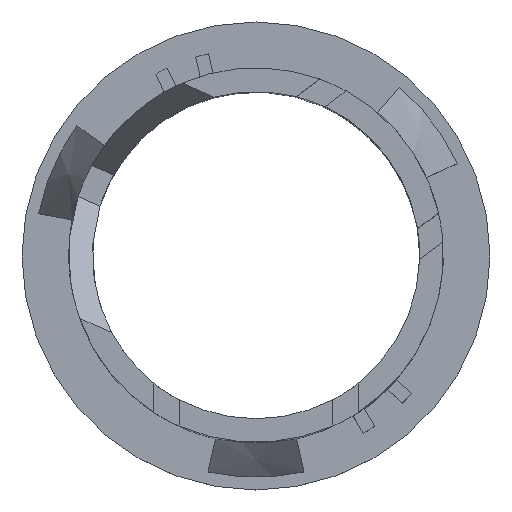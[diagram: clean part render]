
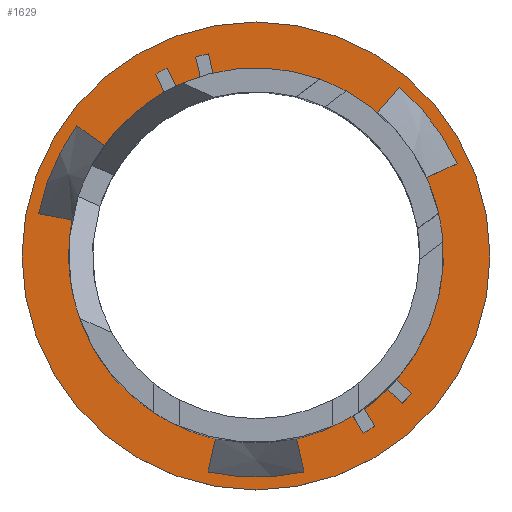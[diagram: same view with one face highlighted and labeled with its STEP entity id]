
A CAD part, top view. The second image highlights one B-rep face of the part: STEP entity #1629.
In plain terms, the highlighted planar face has unit normal (0, 0, 1).
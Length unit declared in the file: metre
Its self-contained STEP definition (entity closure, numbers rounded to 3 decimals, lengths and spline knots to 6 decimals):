
#34=PLANE('',#1808);
#113=CIRCLE('',#1730,0.013465);
#115=CIRCLE('',#1732,0.013465);
#117=CIRCLE('',#1734,0.013465);
#119=CIRCLE('',#1736,0.013465);
#178=CIRCLE('',#1807,0.01682);
#179=CIRCLE('',#1809,0.014915);
#180=CIRCLE('',#1810,0.014915);
#181=CIRCLE('',#1811,0.014915);
#182=CIRCLE('',#1812,0.014915);
#356=ORIENTED_EDGE('',*,*,#696,.F.);
#357=ORIENTED_EDGE('',*,*,#834,.T.);
#358=ORIENTED_EDGE('',*,*,#835,.F.);
#359=ORIENTED_EDGE('',*,*,#836,.F.);
#360=ORIENTED_EDGE('',*,*,#708,.F.);
#361=ORIENTED_EDGE('',*,*,#837,.T.);
#362=ORIENTED_EDGE('',*,*,#838,.F.);
#363=ORIENTED_EDGE('',*,*,#839,.F.);
#364=ORIENTED_EDGE('',*,*,#704,.F.);
#365=ORIENTED_EDGE('',*,*,#840,.T.);
#366=ORIENTED_EDGE('',*,*,#841,.F.);
#367=ORIENTED_EDGE('',*,*,#842,.F.);
#368=ORIENTED_EDGE('',*,*,#700,.F.);
#369=ORIENTED_EDGE('',*,*,#843,.T.);
#370=ORIENTED_EDGE('',*,*,#844,.F.);
#371=ORIENTED_EDGE('',*,*,#845,.F.);
#372=ORIENTED_EDGE('',*,*,#833,.T.);
#696=EDGE_CURVE('',#941,#942,#113,.T.);
#700=EDGE_CURVE('',#945,#946,#115,.T.);
#704=EDGE_CURVE('',#949,#950,#117,.T.);
#708=EDGE_CURVE('',#953,#939,#119,.T.);
#833=EDGE_CURVE('',#1066,#1066,#178,.T.);
#834=EDGE_CURVE('',#941,#1067,#1165,.T.);
#835=EDGE_CURVE('',#1068,#1067,#179,.T.);
#836=EDGE_CURVE('',#939,#1068,#1166,.T.);
#837=EDGE_CURVE('',#953,#1069,#1167,.T.);
#838=EDGE_CURVE('',#1070,#1069,#180,.T.);
#839=EDGE_CURVE('',#950,#1070,#1168,.T.);
#840=EDGE_CURVE('',#949,#1071,#1169,.T.);
#841=EDGE_CURVE('',#1072,#1071,#181,.T.);
#842=EDGE_CURVE('',#946,#1072,#1170,.T.);
#843=EDGE_CURVE('',#945,#1073,#1171,.T.);
#844=EDGE_CURVE('',#1074,#1073,#182,.T.);
#845=EDGE_CURVE('',#942,#1074,#1172,.T.);
#939=VERTEX_POINT('',#2442);
#941=VERTEX_POINT('',#2446);
#942=VERTEX_POINT('',#2448);
#945=VERTEX_POINT('',#2454);
#946=VERTEX_POINT('',#2456);
#949=VERTEX_POINT('',#2462);
#950=VERTEX_POINT('',#2464);
#953=VERTEX_POINT('',#2470);
#1066=VERTEX_POINT('',#2717);
#1067=VERTEX_POINT('',#2720);
#1068=VERTEX_POINT('',#2722);
#1069=VERTEX_POINT('',#2725);
#1070=VERTEX_POINT('',#2727);
#1071=VERTEX_POINT('',#2730);
#1072=VERTEX_POINT('',#2732);
#1073=VERTEX_POINT('',#2735);
#1074=VERTEX_POINT('',#2737);
#1165=LINE('',#2719,#1321);
#1166=LINE('',#2723,#1322);
#1167=LINE('',#2724,#1323);
#1168=LINE('',#2728,#1324);
#1169=LINE('',#2729,#1325);
#1170=LINE('',#2733,#1326);
#1171=LINE('',#2734,#1327);
#1172=LINE('',#2738,#1328);
#1321=VECTOR('',#2152,1.);
#1322=VECTOR('',#2155,1.);
#1323=VECTOR('',#2156,1.);
#1324=VECTOR('',#2159,1.);
#1325=VECTOR('',#2160,1.);
#1326=VECTOR('',#2163,1.);
#1327=VECTOR('',#2164,1.);
#1328=VECTOR('',#2167,1.);
#1424=EDGE_LOOP('',(#356,#357,#358,#359,#360,#361,#362,#363,#364,#365,#366,
#367,#368,#369,#370,#371));
#1425=EDGE_LOOP('',(#372));
#1530=FACE_BOUND('',#1424,.T.);
#1531=FACE_BOUND('',#1425,.T.);
#1629=ADVANCED_FACE('',(#1530,#1531),#34,.T.);
#1730=AXIS2_PLACEMENT_3D('',#2447,#1926,#1927);
#1732=AXIS2_PLACEMENT_3D('',#2455,#1932,#1933);
#1734=AXIS2_PLACEMENT_3D('',#2463,#1938,#1939);
#1736=AXIS2_PLACEMENT_3D('',#2471,#1944,#1945);
#1807=AXIS2_PLACEMENT_3D('',#2716,#2148,#2149);
#1808=AXIS2_PLACEMENT_3D('',#2718,#2150,#2151);
#1809=AXIS2_PLACEMENT_3D('',#2721,#2153,#2154);
#1810=AXIS2_PLACEMENT_3D('',#2726,#2157,#2158);
#1811=AXIS2_PLACEMENT_3D('',#2731,#2161,#2162);
#1812=AXIS2_PLACEMENT_3D('',#2736,#2165,#2166);
#1926=DIRECTION('',(0.,0.,1.));
#1927=DIRECTION('',(1.,0.,0.));
#1932=DIRECTION('',(0.,0.,1.));
#1933=DIRECTION('',(1.,0.,0.));
#1938=DIRECTION('',(0.,0.,1.));
#1939=DIRECTION('',(1.,0.,0.));
#1944=DIRECTION('',(0.,0.,1.));
#1945=DIRECTION('',(1.,0.,0.));
#2148=DIRECTION('',(0.,0.,1.));
#2149=DIRECTION('',(1.,0.,0.));
#2150=DIRECTION('',(0.,0.,1.));
#2151=DIRECTION('',(1.,0.,0.));
#2152=DIRECTION('',(-0.426,0.905,0.));
#2153=DIRECTION('',(0.,0.,1.));
#2154=DIRECTION('',(1.,0.,0.));
#2155=DIRECTION('',(-0.426,0.905,0.));
#2156=DIRECTION('',(-0.23,0.973,0.));
#2157=DIRECTION('',(0.,0.,1.));
#2158=DIRECTION('',(1.,0.,0.));
#2159=DIRECTION('',(-0.23,0.973,0.));
#2160=DIRECTION('',(0.748,-0.663,0.));
#2161=DIRECTION('',(0.,0.,1.));
#2162=DIRECTION('',(1.,0.,0.));
#2163=DIRECTION('',(0.748,-0.663,0.));
#2164=DIRECTION('',(0.518,-0.855,0.));
#2165=DIRECTION('',(0.,0.,1.));
#2166=DIRECTION('',(1.,0.,0.));
#2167=DIRECTION('',(0.518,-0.855,0.));
#2442=CARTESIAN_POINT('',(-0.005742,0.012179,0.00169));
#2446=CARTESIAN_POINT('',(-0.006587,0.011744,0.00169));
#2447=CARTESIAN_POINT('',(0.,0.,0.00169));
#2448=CARTESIAN_POINT('',(0.006973,-0.011519,0.00169));
#2454=CARTESIAN_POINT('',(0.007768,-0.010998,0.00169));
#2455=CARTESIAN_POINT('',(0.,0.,0.00169));
#2456=CARTESIAN_POINT('',(0.009422,-0.00962,0.00169));
#2462=CARTESIAN_POINT('',(0.010077,-0.008931,0.00169));
#2463=CARTESIAN_POINT('',(0.,0.,0.00169));
#2464=CARTESIAN_POINT('',(-0.003092,0.013105,0.00169));
#2470=CARTESIAN_POINT('',(-0.004009,0.012854,0.00169));
#2471=CARTESIAN_POINT('',(0.,0.,0.00169));
#2716=CARTESIAN_POINT('',(0.,0.,0.00169));
#2717=CARTESIAN_POINT('',(0.01682,0.,0.00169));
#2718=CARTESIAN_POINT('',(0.,0.,0.00169));
#2719=CARTESIAN_POINT('',(-0.006897,0.012401,0.00169));
#2720=CARTESIAN_POINT('',(-0.007207,0.013058,0.00169));
#2721=CARTESIAN_POINT('',(0.,0.,0.00169));
#2722=CARTESIAN_POINT('',(-0.006361,0.013491,0.00169));
#2723=CARTESIAN_POINT('',(-0.006051,0.012835,0.00169));
#2724=CARTESIAN_POINT('',(-0.004176,0.013562,0.00169));
#2725=CARTESIAN_POINT('',(-0.004343,0.014269,0.00169));
#2726=CARTESIAN_POINT('',(0.,0.,0.00169));
#2727=CARTESIAN_POINT('',(-0.003425,0.014516,0.00169));
#2728=CARTESIAN_POINT('',(-0.003259,0.013811,0.00169));
#2729=CARTESIAN_POINT('',(0.010619,-0.009412,0.00169));
#2730=CARTESIAN_POINT('',(0.011162,-0.009893,0.00169));
#2731=CARTESIAN_POINT('',(0.,0.,0.00169));
#2732=CARTESIAN_POINT('',(0.010509,-0.010584,0.00169));
#2733=CARTESIAN_POINT('',(0.009965,-0.010102,0.00169));
#2734=CARTESIAN_POINT('',(0.008144,-0.01162,0.00169));
#2735=CARTESIAN_POINT('',(0.008521,-0.012242,0.00169));
#2736=CARTESIAN_POINT('',(0.,0.,0.00169));
#2737=CARTESIAN_POINT('',(0.007724,-0.012759,0.00169));
#2738=CARTESIAN_POINT('',(0.007348,-0.012139,0.00169));
